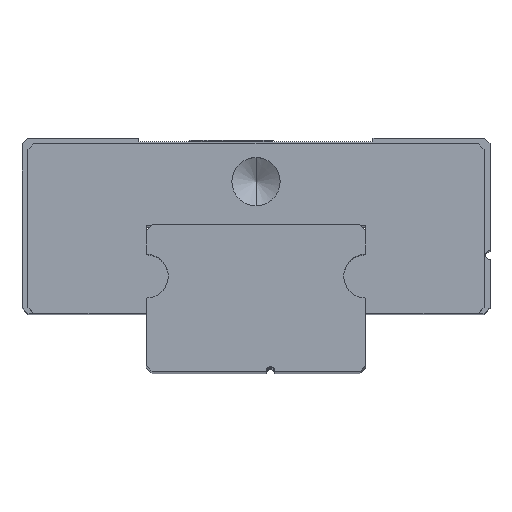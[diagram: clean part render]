
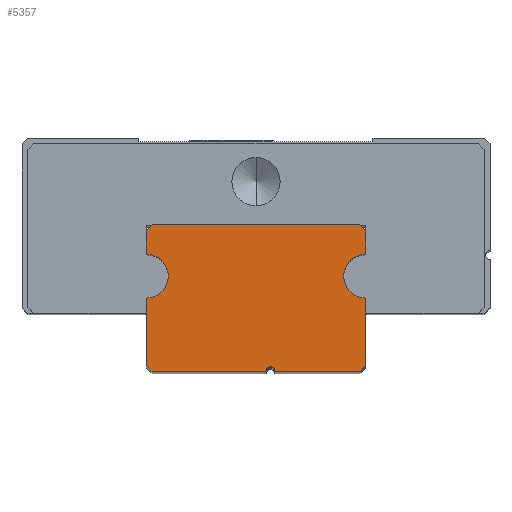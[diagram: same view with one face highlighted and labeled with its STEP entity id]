
A CAD part, top view. The second image highlights one B-rep face of the part: STEP entity #5357.
In plain terms, the highlighted planar face has unit normal (0, 0, 1).
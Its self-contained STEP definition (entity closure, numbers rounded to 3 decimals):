
#221 = EDGE_CURVE ( 'NONE', #6979, #7050, #6433, .T. ) ;
#457 = CARTESIAN_POINT ( 'NONE',  ( 1., 0., 55. ) ) ;
#474 = ORIENTED_EDGE ( 'NONE', *, *, #7088, .F. ) ;
#490 = DIRECTION ( 'NONE',  ( 0., 1., 0. ) ) ;
#514 = DIRECTION ( 'NONE',  ( 0., 0., -1. ) ) ;
#524 = VECTOR ( 'NONE', #701, 1000. ) ;
#662 = EDGE_CURVE ( 'NONE', #5671, #8521, #4563, .T. ) ;
#701 = DIRECTION ( 'NONE',  ( -1., 0., 0. ) ) ;
#705 = DIRECTION ( 'NONE',  ( -1., 0., 0. ) ) ;
#935 = CARTESIAN_POINT ( 'NONE',  ( 7.5, 9.6, 55. ) ) ;
#958 = VECTOR ( 'NONE', #10664, 1000. ) ;
#974 = ORIENTED_EDGE ( 'NONE', *, *, #9656, .T. ) ;
#1000 = DIRECTION ( 'NONE',  ( 0., -1., 0. ) ) ;
#1018 = CARTESIAN_POINT ( 'NONE',  ( -7.5, 0., 55. ) ) ;
#1061 = ORIENTED_EDGE ( 'NONE', *, *, #8417, .F. ) ;
#1180 = VERTEX_POINT ( 'NONE', #10284 ) ;
#1319 = DIRECTION ( 'NONE',  ( 0., 0., 1. ) ) ;
#1331 = DIRECTION ( 'NONE',  ( -1., 0., 0. ) ) ;
#1672 = EDGE_CURVE ( 'NONE', #5671, #10345, #2218, .T. ) ;
#1818 = VERTEX_POINT ( 'NONE', #4255 ) ;
#1967 = CARTESIAN_POINT ( 'NONE',  ( 7.5, 5., 55. ) ) ;
#2108 = CARTESIAN_POINT ( 'NONE',  ( 7.5, 6.5, 55. ) ) ;
#2116 = VECTOR ( 'NONE', #3746, 1000. ) ;
#2175 = LINE ( 'NONE', #6674, #6733 ) ;
#2195 = ORIENTED_EDGE ( 'NONE', *, *, #1672, .F. ) ;
#2218 = LINE ( 'NONE', #9267, #5313 ) ;
#2515 = ORIENTED_EDGE ( 'NONE', *, *, #662, .T. ) ;
#2677 = ORIENTED_EDGE ( 'NONE', *, *, #221, .T. ) ;
#2681 = AXIS2_PLACEMENT_3D ( 'NONE', #3647, #2822, #8121 ) ;
#2822 = DIRECTION ( 'NONE',  ( 0., 0., -1. ) ) ;
#2888 = FACE_OUTER_BOUND ( 'NONE', #7794, .T. ) ;
#3034 = LINE ( 'NONE', #9097, #4701 ) ;
#3092 = LINE ( 'NONE', #6478, #8052 ) ;
#3165 = CARTESIAN_POINT ( 'NONE',  ( -7.5, 8., 55. ) ) ;
#3219 = DIRECTION ( 'NONE',  ( -0.707, -0.707, 0. ) ) ;
#3647 = CARTESIAN_POINT ( 'NONE',  ( 1., 0., 55. ) ) ;
#3746 = DIRECTION ( 'NONE',  ( 0., 1., 0. ) ) ;
#3781 = ORIENTED_EDGE ( 'NONE', *, *, #8191, .F. ) ;
#3791 = CARTESIAN_POINT ( 'NONE',  ( 7.5, 0., 55. ) ) ;
#3911 = LINE ( 'NONE', #3791, #5654 ) ;
#3984 = AXIS2_PLACEMENT_3D ( 'NONE', #9203, #1319, #9257 ) ;
#4052 = DIRECTION ( 'NONE',  ( -1., 0., 0. ) ) ;
#4141 = EDGE_CURVE ( 'NONE', #6979, #6438, #8577, .T. ) ;
#4255 = CARTESIAN_POINT ( 'NONE',  ( 7.1, 0., 55. ) ) ;
#4318 = CARTESIAN_POINT ( 'NONE',  ( 0.7, 0., 55. ) ) ;
#4377 = VERTEX_POINT ( 'NONE', #7862 ) ;
#4397 = CARTESIAN_POINT ( 'NONE',  ( 7.1, 10., 55. ) ) ;
#4494 = CARTESIAN_POINT ( 'NONE',  ( -7.5, 5., 55. ) ) ;
#4563 = LINE ( 'NONE', #4397, #958 ) ;
#4610 = PLANE ( 'NONE',  #2681 ) ;
#4701 = VECTOR ( 'NONE', #490, 1000. ) ;
#5119 = ORIENTED_EDGE ( 'NONE', *, *, #7412, .F. ) ;
#5313 = VECTOR ( 'NONE', #8329, 1000. ) ;
#5357 = ADVANCED_FACE ( 'NONE', ( #2888 ), #4610, .F. ) ;
#5369 = LINE ( 'NONE', #9732, #6395 ) ;
#5373 = EDGE_CURVE ( 'NONE', #6822, #4377, #6282, .T. ) ;
#5490 = EDGE_CURVE ( 'NONE', #11077, #4377, #2175, .T. ) ;
#5654 = VECTOR ( 'NONE', #1000, 1000. ) ;
#5671 = VERTEX_POINT ( 'NONE', #935 ) ;
#5810 = LINE ( 'NONE', #11048, #9118 ) ;
#5895 = AXIS2_PLACEMENT_3D ( 'NONE', #457, #514, #10703 ) ;
#6136 = DIRECTION ( 'NONE',  ( 0.707, 0.707, 0. ) ) ;
#6169 = CARTESIAN_POINT ( 'NONE',  ( 6., 6.5, 55. ) ) ;
#6282 = LINE ( 'NONE', #1018, #2116 ) ;
#6316 = ORIENTED_EDGE ( 'NONE', *, *, #4141, .F. ) ;
#6395 = VECTOR ( 'NONE', #6136, 1000. ) ;
#6414 = CARTESIAN_POINT ( 'NONE',  ( 7.5, 8., 55. ) ) ;
#6433 = CIRCLE ( 'NONE', #5895, 0.3 ) ;
#6438 = VERTEX_POINT ( 'NONE', #7040 ) ;
#6446 = DIRECTION ( 'NONE',  ( 0., 0., 1. ) ) ;
#6478 = CARTESIAN_POINT ( 'NONE',  ( -7.1, 0., 55. ) ) ;
#6535 = ORIENTED_EDGE ( 'NONE', *, *, #5490, .T. ) ;
#6571 = VERTEX_POINT ( 'NONE', #1967 ) ;
#6586 = ORIENTED_EDGE ( 'NONE', *, *, #9301, .F. ) ;
#6674 = CARTESIAN_POINT ( 'NONE',  ( -7.5, 9.6, 55. ) ) ;
#6720 = CARTESIAN_POINT ( 'NONE',  ( 7.5, 6.5, 55. ) ) ;
#6733 = VECTOR ( 'NONE', #3219, 1000. ) ;
#6822 = VERTEX_POINT ( 'NONE', #3165 ) ;
#6979 = VERTEX_POINT ( 'NONE', #4318 ) ;
#7040 = CARTESIAN_POINT ( 'NONE',  ( -7.1, 0., 55. ) ) ;
#7050 = VERTEX_POINT ( 'NONE', #8222 ) ;
#7088 = EDGE_CURVE ( 'NONE', #1818, #7050, #5810, .T. ) ;
#7302 = CARTESIAN_POINT ( 'NONE',  ( 7.5, 0.4, 55. ) ) ;
#7333 = ORIENTED_EDGE ( 'NONE', *, *, #5373, .F. ) ;
#7412 = EDGE_CURVE ( 'NONE', #9109, #6822, #8395, .T. ) ;
#7703 = CARTESIAN_POINT ( 'NONE',  ( 7.1, 10., 55. ) ) ;
#7735 = EDGE_CURVE ( 'NONE', #6571, #10580, #3911, .T. ) ;
#7794 = EDGE_LOOP ( 'NONE', ( #474, #974, #9224, #3781, #6586, #2195, #2515, #7974, #6535, #7333, #5119, #1061, #8616, #6316, #2677 ) ) ;
#7811 = AXIS2_PLACEMENT_3D ( 'NONE', #2108, #6446, #4052 ) ;
#7862 = CARTESIAN_POINT ( 'NONE',  ( -7.5, 9.6, 55. ) ) ;
#7974 = ORIENTED_EDGE ( 'NONE', *, *, #11178, .T. ) ;
#8052 = VECTOR ( 'NONE', #9210, 1000. ) ;
#8099 = CARTESIAN_POINT ( 'NONE',  ( -7.1, 10., 55. ) ) ;
#8108 = VERTEX_POINT ( 'NONE', #6169 ) ;
#8121 = DIRECTION ( 'NONE',  ( 0., -1., 0. ) ) ;
#8191 = EDGE_CURVE ( 'NONE', #8108, #6571, #10950, .T. ) ;
#8222 = CARTESIAN_POINT ( 'NONE',  ( 1.3, 0., 55. ) ) ;
#8329 = DIRECTION ( 'NONE',  ( 0., -1., 0. ) ) ;
#8395 = CIRCLE ( 'NONE', #3984, 1.5 ) ;
#8417 = EDGE_CURVE ( 'NONE', #1180, #9109, #3034, .T. ) ;
#8521 = VERTEX_POINT ( 'NONE', #7703 ) ;
#8577 = LINE ( 'NONE', #8814, #524 ) ;
#8616 = ORIENTED_EDGE ( 'NONE', *, *, #9414, .T. ) ;
#8814 = CARTESIAN_POINT ( 'NONE',  ( 1., 0., 55. ) ) ;
#8979 = VECTOR ( 'NONE', #9535, 1000. ) ;
#9097 = CARTESIAN_POINT ( 'NONE',  ( -7.5, 0., 55. ) ) ;
#9109 = VERTEX_POINT ( 'NONE', #4494 ) ;
#9118 = VECTOR ( 'NONE', #1331, 1000. ) ;
#9203 = CARTESIAN_POINT ( 'NONE',  ( -7.5, 6.5, 55. ) ) ;
#9210 = DIRECTION ( 'NONE',  ( 0.707, -0.707, 0. ) ) ;
#9224 = ORIENTED_EDGE ( 'NONE', *, *, #7735, .F. ) ;
#9257 = DIRECTION ( 'NONE',  ( -1., 0., 0. ) ) ;
#9267 = CARTESIAN_POINT ( 'NONE',  ( 7.5, 0., 55. ) ) ;
#9301 = EDGE_CURVE ( 'NONE', #10345, #8108, #9332, .T. ) ;
#9332 = CIRCLE ( 'NONE', #10790, 1.5 ) ;
#9414 = EDGE_CURVE ( 'NONE', #1180, #6438, #3092, .T. ) ;
#9535 = DIRECTION ( 'NONE',  ( -1., 0., 0. ) ) ;
#9638 = CARTESIAN_POINT ( 'NONE',  ( 7.5, 10., 55. ) ) ;
#9656 = EDGE_CURVE ( 'NONE', #1818, #10580, #5369, .T. ) ;
#9732 = CARTESIAN_POINT ( 'NONE',  ( 7.5, 0.4, 55. ) ) ;
#10248 = DIRECTION ( 'NONE',  ( 0., 0., 1. ) ) ;
#10284 = CARTESIAN_POINT ( 'NONE',  ( -7.5, 0.4, 55. ) ) ;
#10345 = VERTEX_POINT ( 'NONE', #6414 ) ;
#10580 = VERTEX_POINT ( 'NONE', #7302 ) ;
#10664 = DIRECTION ( 'NONE',  ( -0.707, 0.707, 0. ) ) ;
#10703 = DIRECTION ( 'NONE',  ( -1., 0., 0. ) ) ;
#10790 = AXIS2_PLACEMENT_3D ( 'NONE', #6720, #10248, #705 ) ;
#10950 = CIRCLE ( 'NONE', #7811, 1.5 ) ;
#11048 = CARTESIAN_POINT ( 'NONE',  ( 1., 0., 55. ) ) ;
#11077 = VERTEX_POINT ( 'NONE', #8099 ) ;
#11178 = EDGE_CURVE ( 'NONE', #8521, #11077, #11429, .T. ) ;
#11429 = LINE ( 'NONE', #9638, #8979 ) ;
